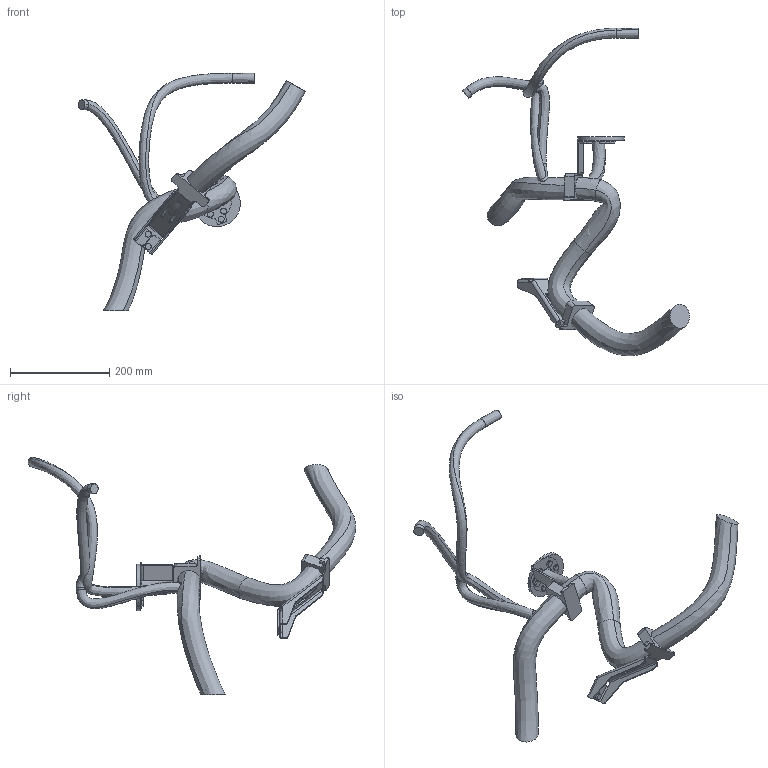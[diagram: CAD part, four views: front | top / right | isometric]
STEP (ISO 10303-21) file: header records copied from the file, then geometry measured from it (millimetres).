
FILE_DESCRIPTION (( 'STEP AP214' ), '1' );
FILE_NAME ('IRB6760_All_OC_00_LINK01m_CABLE.step', '2025-09-30T13:06:56', ( '' ), ( '' ), 'SwSTEP 2.0', 'SolidWorks 2024', '' );
FILE_SCHEMA (( 'AUTOMOTIVE_DESIGN' ));
Length unit declared in the file: millimetre
Products named in the file (1): IRB6760_All_OC_00_LINK01m_CABLE
Bounding box: 457.94 x 660.44 x 478.84 mm (x, y, z)
Volume: 2157715.1 mm3; surface area: 279210.7 mm2
Topology: 1 solids, 1 shells, 275 faces, 724 edges, 458 vertices
Faces by surface type: plane 145, cylinder 106, bspline 24
Entity records: 16650 total; most frequent: CARTESIAN_POINT 9954, ORIENTED_EDGE 1448, DIRECTION 1344, EDGE_CURVE 724, AXIS2_PLACEMENT_3D 469, VERTEX_POINT 458, VECTOR 406, LINE 406
